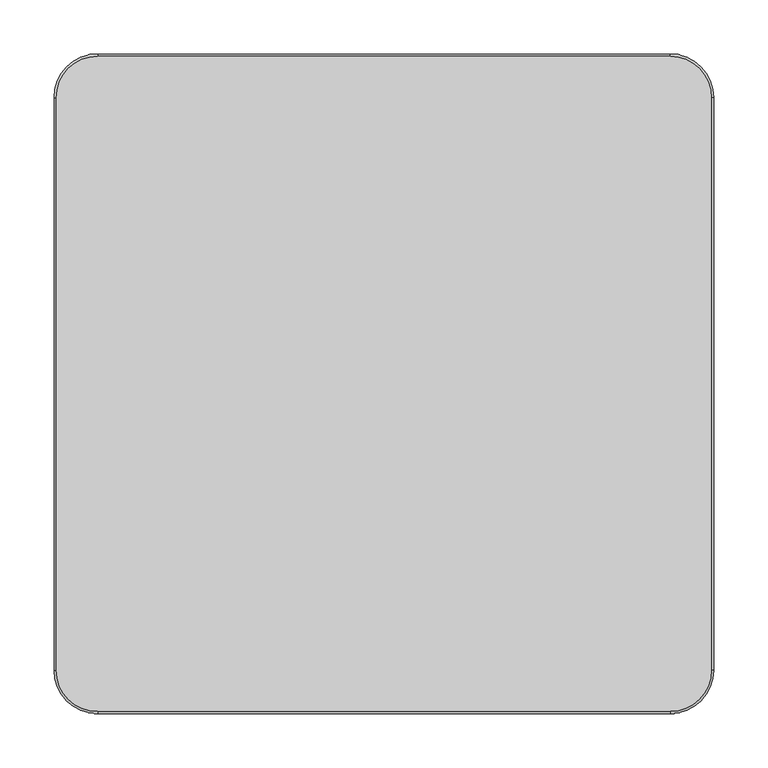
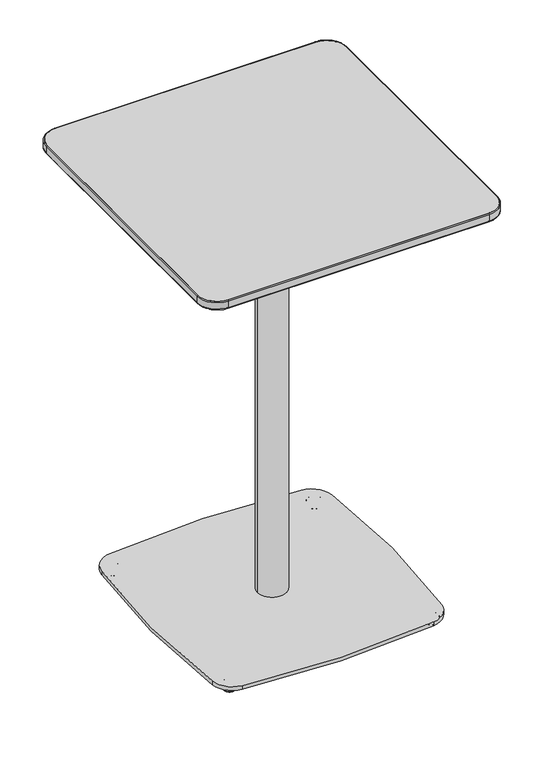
"""IFC4 building model written with IfcOpenShell, lengths in millimetres: furniture geometry, Coalesse_AM_Table_Occasional_Montara650Table_CafeHeight_Square : Counter Height - 24D x 24W."""

from ifc_helpers import new_model, si_unit, point, frame, frame_2d, origin, place, context, project, spatial, polyline, circle_curve, ellipse_curve, trimmed, segment, composite_curve, outline, extrude, source, transform, mapped, element, save
from ifc_brep_helpers import plane_surface, cylinder_surface, revolved_surface, spline_surface, advanced_brep


def furniture_91c41395(model_context):
    return source(origin(), model_context, "Body", "SolidModel", [
        advanced_brep(
        [(-199.4595416, -196.2537842, 0.0), (-209.8436061, -214.2395115, 0.0), (-204.6515739, -205.2466479, 0.0), (-199.0731063, -195.5844585, 0.5718943), (-210.2300415, -214.9088372, 0.5718943), (-197.4473977, -192.7686487, 11.2068005), (-211.8557501, -217.7246471, 11.2068005), (-197.7408617, -193.2769433, 11.9999882), (-211.5622861, -217.2163525, 11.9999882), (-204.6515739, -205.2466479, 11.9999882)],
        [
            (0, 1, circle_curve(frame((-204.6515739, -205.2466479, 0.0), z_axis=(0.0, 0.0, -1.0), x_axis=(-0.5000000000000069, -0.8660254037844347, 0.0)), 10.3840645)),
            (1, 2),
            (2, 0),
            (1, 0, circle_curve(frame((-204.6515739, -205.2466479, 0.0), z_axis=(0.0, 0.0, -1.0), x_axis=(-0.5000000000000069, -0.8660254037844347, 0.0)), 10.3840645)),
            (3, 4, circle_curve(frame((-204.6515739, -205.2466479, 0.5718943), z_axis=(0.0, 0.0, -1.0), x_axis=(-0.5000000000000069, -0.8660254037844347, 0.0)), 11.1569353)),
            (4, 1, circle_curve(frame((-209.8436061, -214.2395115, 0.8081846), z_axis=(0.8660254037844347, -0.5000000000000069, 0.0), x_axis=(-0.5000000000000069, -0.8660254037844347, 0.0)), 0.8081846)),
            (0, 3, circle_curve(frame((-199.4595416, -196.2537842, 0.8081846), z_axis=(0.866025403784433, -0.5000000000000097, 0.0), x_axis=(0.5000000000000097, 0.866025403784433, 0.0)), 0.8081846)),
            (4, 3, circle_curve(frame((-204.6515739, -205.2466479, 0.5718943), z_axis=(0.0, 0.0, -1.0), x_axis=(-0.5000000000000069, -0.8660254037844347, 0.0)), 11.1569353)),
            (5, 6, circle_curve(frame((-204.6515739, -205.2466479, 11.2068005), z_axis=(0.0, 0.0, -1.0), x_axis=(-0.5000000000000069, -0.8660254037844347, 0.0)), 14.4083524)),
            (6, 4),
            (3, 5),
            (6, 5, circle_curve(frame((-204.6515739, -205.2466479, 11.2068005), z_axis=(0.0, 0.0, -1.0), x_axis=(-0.5000000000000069, -0.8660254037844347, 0.0)), 14.4083524)),
            (7, 8, circle_curve(frame((-204.6515739, -205.2466479, 11.9999882), z_axis=(0.0, 0.0, -1.0), x_axis=(-0.5000000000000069, -0.8660254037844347, 0.0)), 13.8214243)),
            (8, 6, circle_curve(frame((-211.5622861, -217.2163525, 11.3862424), z_axis=(0.8660254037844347, -0.5000000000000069, 0.0), x_axis=(-0.5000000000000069, -0.8660254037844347, 0.0)), 0.6137458)),
            (5, 7, circle_curve(frame((-197.7408617, -193.2769433, 11.3862424), z_axis=(0.866025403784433, -0.5000000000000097, 0.0), x_axis=(0.5000000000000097, 0.866025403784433, 0.0)), 0.6137458)),
            (8, 7, circle_curve(frame((-204.6515739, -205.2466479, 11.9999882), z_axis=(0.0, 0.0, -1.0), x_axis=(-0.5000000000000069, -0.8660254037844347, 0.0)), 13.8214243)),
            (9, 8),
            (7, 9),
        ],
        [
            plane_surface(frame((-204.6515739, -205.2466479, 0.0), z_axis=(0.0, 0.0, -1.0), x_axis=(-0.5000000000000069, -0.8660254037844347, 0.0))),
            revolved_surface(trimmed(ellipse_curve(frame((-209.8436061, -214.2395115, 0.8081846), z_axis=(-0.8660254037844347, 0.5000000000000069, 0.0), x_axis=(-0.5000000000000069, -0.8660254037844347, 0.0)), 0.8081846, 0.8081846), [point((-209.8436061, -214.2395115, 0.0))], [point((-210.2300415, -214.9088372, 0.5718943))], True, "CARTESIAN"), (-204.6515739, -205.2466479, 12.2086845), (0.0, 0.0, 1.0)),
            revolved_surface(polyline([(-210.2300415, -214.9088372, 0.5718943), (-211.8557501, -217.7246471, 11.2068005)]), (-204.6515739, -205.2466479, 12.2086845), (0.0, 0.0, 1.0)),
            revolved_surface(trimmed(ellipse_curve(frame((-211.5622861, -217.2163525, 11.3862424), z_axis=(-0.8660254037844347, 0.5000000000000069, 0.0), x_axis=(-0.5000000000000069, -0.8660254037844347, 0.0)), 0.6137458, 0.6137458), [point((-211.8557501, -217.7246471, 11.2068005))], [point((-211.5622861, -217.2163525, 11.9999882))], True, "CARTESIAN"), (-204.6515739, -205.2466479, 12.2086845), (0.0, 0.0, 1.0)),
            plane_surface(frame((-204.6515739, -205.2466479, 11.9999882), z_axis=(0.0, 0.0, 1.0), x_axis=(-0.5000000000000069, -0.8660254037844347, 0.0))),
        ],
        [
            (0, [[1, 2, 3]]),
            (0, [[4, -3, -2]]),
            (1, [[5, 6, -1, 7]]),
            (1, [[8, -7, -4, -6]]),
            (2, [[9, 10, -5, 11]]),
            (2, [[12, -11, -8, -10]]),
            (3, [[13, 14, -9, 15]]),
            (3, [[16, -15, -12, -14]]),
            (4, [[17, -13, 18]]),
            (4, [[-18, -16, -17]]),
        ],
    ),
        advanced_brep(
        [(204.6515739, -205.2466479, 0.0), (209.8436061, -214.2395115, 0.0), (199.4595416, -196.2537842, 0.0), (210.2300415, -214.9088372, 0.5718943), (199.0731063, -195.5844585, 0.5718943), (211.8557501, -217.7246471, 11.2068005), (197.4473977, -192.7686487, 11.2068005), (211.5622861, -217.2163525, 11.9999882), (197.7408617, -193.2769433, 11.9999882), (204.6515739, -205.2466479, 11.9999882)],
        [
            (0, 1),
            (1, 2, circle_curve(frame((204.6515739, -205.2466479, 0.0), z_axis=(0.0, 0.0, -1.0), x_axis=(0.5000000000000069, -0.8660254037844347, 0.0)), 10.3840645)),
            (2, 0),
            (2, 1, circle_curve(frame((204.6515739, -205.2466479, 0.0), z_axis=(0.0, 0.0, -1.0), x_axis=(0.5000000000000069, -0.8660254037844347, 0.0)), 10.3840645)),
            (1, 3, circle_curve(frame((209.8436061, -214.2395115, 0.8081846), z_axis=(-0.8660254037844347, -0.5000000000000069, 0.0), x_axis=(0.5000000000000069, -0.8660254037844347, 0.0)), 0.8081846)),
            (3, 4, circle_curve(frame((204.6515739, -205.2466479, 0.5718943), z_axis=(0.0, 0.0, -1.0), x_axis=(0.5000000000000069, -0.8660254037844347, 0.0)), 11.1569353)),
            (4, 2, circle_curve(frame((199.4595416, -196.2537842, 0.8081846), z_axis=(-0.866025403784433, -0.5000000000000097, 0.0), x_axis=(-0.5000000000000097, 0.866025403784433, 0.0)), 0.8081846)),
            (4, 3, circle_curve(frame((204.6515739, -205.2466479, 0.5718943), z_axis=(0.0, 0.0, -1.0), x_axis=(0.5000000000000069, -0.8660254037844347, 0.0)), 11.1569353)),
            (3, 5),
            (5, 6, circle_curve(frame((204.6515739, -205.2466479, 11.2068005), z_axis=(0.0, 0.0, -1.0), x_axis=(0.5000000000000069, -0.8660254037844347, 0.0)), 14.4083524)),
            (6, 4),
            (6, 5, circle_curve(frame((204.6515739, -205.2466479, 11.2068005), z_axis=(0.0, 0.0, -1.0), x_axis=(0.5000000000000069, -0.8660254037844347, 0.0)), 14.4083524)),
            (5, 7, circle_curve(frame((211.5622861, -217.2163525, 11.3862424), z_axis=(-0.8660254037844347, -0.5000000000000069, 0.0), x_axis=(0.5000000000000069, -0.8660254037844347, 0.0)), 0.6137458)),
            (7, 8, circle_curve(frame((204.6515739, -205.2466479, 11.9999882), z_axis=(0.0, 0.0, -1.0), x_axis=(0.5000000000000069, -0.8660254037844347, 0.0)), 13.8214243)),
            (8, 6, circle_curve(frame((197.7408617, -193.2769433, 11.3862424), z_axis=(-0.866025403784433, -0.5000000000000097, 0.0), x_axis=(-0.5000000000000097, 0.866025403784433, 0.0)), 0.6137458)),
            (8, 7, circle_curve(frame((204.6515739, -205.2466479, 11.9999882), z_axis=(0.0, 0.0, -1.0), x_axis=(0.5000000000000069, -0.8660254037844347, 0.0)), 13.8214243)),
            (7, 9),
            (9, 8),
        ],
        [
            plane_surface(frame((204.6515739, -205.2466479, 0.0), z_axis=(0.0, 0.0, -1.0), x_axis=(0.5000000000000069, -0.8660254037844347, 0.0))),
            revolved_surface(trimmed(ellipse_curve(frame((209.8436061, -214.2395115, 0.8081846), z_axis=(0.8660254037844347, 0.5000000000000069, 0.0), x_axis=(0.5000000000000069, -0.8660254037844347, 0.0)), 0.8081846, 0.8081846), [point((210.2300415, -214.9088372, 0.5718943))], [point((209.8436061, -214.2395115, 0.0))], True, "CARTESIAN"), (204.6515739, -205.2466479, 12.2086845), (0.0, 0.0, -1.0)),
            revolved_surface(polyline([(211.8557501, -217.7246471, 11.2068005), (210.2300415, -214.9088372, 0.5718943)]), (204.6515739, -205.2466479, 12.2086845), (0.0, 0.0, -1.0)),
            revolved_surface(trimmed(ellipse_curve(frame((211.5622861, -217.2163525, 11.3862424), z_axis=(0.8660254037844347, 0.5000000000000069, 0.0), x_axis=(0.5000000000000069, -0.8660254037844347, 0.0)), 0.6137458, 0.6137458), [point((211.5622861, -217.2163525, 11.9999882))], [point((211.8557501, -217.7246471, 11.2068005))], True, "CARTESIAN"), (204.6515739, -205.2466479, 12.2086845), (0.0, 0.0, -1.0)),
            plane_surface(frame((204.6515739, -205.2466479, 11.9999882), z_axis=(0.0, 0.0, 1.0), x_axis=(0.5000000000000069, -0.8660254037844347, 0.0))),
        ],
        [
            (0, [[1, 2, 3]]),
            (0, [[-3, 4, -1]]),
            (1, [[-2, 5, 6, 7]]),
            (1, [[-4, -7, 8, -5]]),
            (2, [[-6, 9, 10, 11]]),
            (2, [[-8, -11, 12, -9]]),
            (3, [[-10, 13, 14, 15]]),
            (3, [[-12, -15, 16, -13]]),
            (4, [[-14, 17, 18]]),
            (4, [[-16, -18, -17]]),
        ],
    ),
        advanced_brep(
        [(199.4595416, 196.2537842, 0.0), (209.8436061, 214.2395115, 0.0), (204.6515739, 205.2466479, 0.0), (199.0731063, 195.5844585, 0.5718943), (210.2300415, 214.9088372, 0.5718943), (197.4473977, 192.7686487, 11.2068005), (211.8557501, 217.7246471, 11.2068005), (197.7408617, 193.2769433, 11.9999882), (211.5622861, 217.2163525, 11.9999882), (204.6515739, 205.2466479, 11.9999882)],
        [
            (0, 1, circle_curve(frame((204.6515739, 205.2466479, 0.0), z_axis=(0.0, 0.0, -1.0), x_axis=(0.5000000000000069, 0.8660254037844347, 0.0)), 10.3840645)),
            (1, 2),
            (2, 0),
            (1, 0, circle_curve(frame((204.6515739, 205.2466479, 0.0), z_axis=(0.0, 0.0, -1.0), x_axis=(0.5000000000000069, 0.8660254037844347, 0.0)), 10.3840645)),
            (3, 4, circle_curve(frame((204.6515739, 205.2466479, 0.5718943), z_axis=(0.0, 0.0, -1.0), x_axis=(0.5000000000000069, 0.8660254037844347, 0.0)), 11.1569353)),
            (4, 1, circle_curve(frame((209.8436061, 214.2395115, 0.8081846), z_axis=(-0.8660254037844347, 0.5000000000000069, 0.0), x_axis=(0.5000000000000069, 0.8660254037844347, 0.0)), 0.8081846)),
            (0, 3, circle_curve(frame((199.4595416, 196.2537842, 0.8081846), z_axis=(-0.866025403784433, 0.5000000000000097, 0.0), x_axis=(-0.5000000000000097, -0.866025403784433, 0.0)), 0.8081846)),
            (4, 3, circle_curve(frame((204.6515739, 205.2466479, 0.5718943), z_axis=(0.0, 0.0, -1.0), x_axis=(0.5000000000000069, 0.8660254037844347, 0.0)), 11.1569353)),
            (5, 6, circle_curve(frame((204.6515739, 205.2466479, 11.2068005), z_axis=(0.0, 0.0, -1.0), x_axis=(0.5000000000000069, 0.8660254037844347, 0.0)), 14.4083524)),
            (6, 4),
            (3, 5),
            (6, 5, circle_curve(frame((204.6515739, 205.2466479, 11.2068005), z_axis=(0.0, 0.0, -1.0), x_axis=(0.5000000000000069, 0.8660254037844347, 0.0)), 14.4083524)),
            (7, 8, circle_curve(frame((204.6515739, 205.2466479, 11.9999882), z_axis=(0.0, 0.0, -1.0), x_axis=(0.5000000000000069, 0.8660254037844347, 0.0)), 13.8214243)),
            (8, 6, circle_curve(frame((211.5622861, 217.2163525, 11.3862424), z_axis=(-0.8660254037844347, 0.5000000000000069, 0.0), x_axis=(0.5000000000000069, 0.8660254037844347, 0.0)), 0.6137458)),
            (5, 7, circle_curve(frame((197.7408617, 193.2769433, 11.3862424), z_axis=(-0.866025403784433, 0.5000000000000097, 0.0), x_axis=(-0.5000000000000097, -0.866025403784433, 0.0)), 0.6137458)),
            (8, 7, circle_curve(frame((204.6515739, 205.2466479, 11.9999882), z_axis=(0.0, 0.0, -1.0), x_axis=(0.5000000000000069, 0.8660254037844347, 0.0)), 13.8214243)),
            (9, 8),
            (7, 9),
        ],
        [
            plane_surface(frame((204.6515739, 205.2466479, 0.0), z_axis=(0.0, 0.0, -1.0), x_axis=(0.5000000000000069, 0.8660254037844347, 0.0))),
            revolved_surface(trimmed(ellipse_curve(frame((209.8436061, 214.2395115, 0.8081846), z_axis=(0.8660254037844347, -0.5000000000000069, 0.0), x_axis=(0.5000000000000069, 0.8660254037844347, 0.0)), 0.8081846, 0.8081846), [point((209.8436061, 214.2395115, 0.0))], [point((210.2300415, 214.9088372, 0.5718943))], True, "CARTESIAN"), (204.6515739, 205.2466479, 12.2086845), (0.0, 0.0, 1.0)),
            revolved_surface(polyline([(210.2300415, 214.9088372, 0.5718943), (211.8557501, 217.7246471, 11.2068005)]), (204.6515739, 205.2466479, 12.2086845), (0.0, 0.0, 1.0)),
            revolved_surface(trimmed(ellipse_curve(frame((211.5622861, 217.2163525, 11.3862424), z_axis=(0.8660254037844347, -0.5000000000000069, 0.0), x_axis=(0.5000000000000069, 0.8660254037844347, 0.0)), 0.6137458, 0.6137458), [point((211.8557501, 217.7246471, 11.2068005))], [point((211.5622861, 217.2163525, 11.9999882))], True, "CARTESIAN"), (204.6515739, 205.2466479, 12.2086845), (0.0, 0.0, 1.0)),
            plane_surface(frame((204.6515739, 205.2466479, 11.9999882), z_axis=(0.0, 0.0, 1.0), x_axis=(0.5000000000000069, 0.8660254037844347, 0.0))),
        ],
        [
            (0, [[1, 2, 3]]),
            (0, [[4, -3, -2]]),
            (1, [[5, 6, -1, 7]]),
            (1, [[8, -7, -4, -6]]),
            (2, [[9, 10, -5, 11]]),
            (2, [[12, -11, -8, -10]]),
            (3, [[13, 14, -9, 15]]),
            (3, [[16, -15, -12, -14]]),
            (4, [[17, -13, 18]]),
            (4, [[-18, -16, -17]]),
        ],
    ),
        extrude(outline(composite_curve([segment(trimmed(circle_curve(frame_2d((189.3188482, 188.9781952)), 44.45), [point((194.4241587, 233.1340363))], [point((233.4709717, 194.115557))], False, "CARTESIAN"), True, "CONTINUOUS"), segment(trimmed(circle_curve(frame_2d((-1397.5488879, 4.3367087)), 1642.0236885), [point((233.4709717, 194.115557))], [point((232.4883748, -193.704489))], False, "CARTESIAN"), True, "CONTINUOUS"), segment(trimmed(circle_curve(frame_2d((188.3628504, -188.3434633)), 44.45), [point((232.4883748, -193.704489))], [point((193.9003311, -232.4471911))], False, "CARTESIAN"), True, "CONTINUOUS"), segment(trimmed(circle_curve(frame_2d((-4.3367152, 1346.4283112)), 1591.2717488), [point((193.9003311, -232.4471911))], [point((-194.577927, -233.4305622))], False, "CARTESIAN"), True, "CONTINUOUS"), segment(trimmed(circle_curve(frame_2d((-189.263799, -189.2993652)), 44.45), [point((-194.577927, -233.4305622))], [point((-233.438325, -194.2403925))], False, "CARTESIAN"), True, "CONTINUOUS"), segment(trimmed(circle_curve(frame_2d((1503.1397991, 5.89e-05)), 1747.4074894), [point((-233.438325, -194.2403925))], [point((-233.4410299, 194.2163254))], False, "CARTESIAN"), True, "CONTINUOUS"), segment(trimmed(circle_curve(frame_2d((-189.2664351, 189.2759133)), 44.45), [point((-233.4410299, 194.2163254))], [point((-194.3022914, 233.4397294))], False, "CARTESIAN"), True, "CONTINUOUS"), segment(trimmed(circle_curve(frame_2d((-1.2702107, -1459.4269529)), 1703.8365498), [point((-194.3022914, 233.4397294))], [point((194.4241587, 233.1340363))], False, "CARTESIAN"), True, "CONTINUOUS")], self_intersect=False)), frame((0.0, 0.0, 11.999986), z_axis=(0.0, 0.0, 1.0), x_axis=(1.0, 0.0, 0.0)), (0.0, 0.0, 1.0), 8.0000105),
        advanced_brep(
        [(-204.6515739, 205.2466479, 0.0), (-209.8436061, 214.2395115, 0.0), (-199.4595416, 196.2537842, 0.0), (-210.2300415, 214.9088372, 0.5718943), (-199.0731063, 195.5844585, 0.5718943), (-211.8557501, 217.7246471, 11.2068005), (-197.4473977, 192.7686487, 11.2068005), (-211.5622861, 217.2163525, 11.9999882), (-197.7408617, 193.2769433, 11.9999882), (-204.6515739, 205.2466479, 11.9999882)],
        [
            (0, 1),
            (1, 2, circle_curve(frame((-204.6515739, 205.2466479, 0.0), z_axis=(0.0, 0.0, -1.0), x_axis=(-0.5000000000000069, 0.8660254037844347, 0.0)), 10.3840645)),
            (2, 0),
            (2, 1, circle_curve(frame((-204.6515739, 205.2466479, 0.0), z_axis=(0.0, 0.0, -1.0), x_axis=(-0.5000000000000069, 0.8660254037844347, 0.0)), 10.3840645)),
            (1, 3, circle_curve(frame((-209.8436061, 214.2395115, 0.8081846), z_axis=(0.8660254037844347, 0.5000000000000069, 0.0), x_axis=(-0.5000000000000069, 0.8660254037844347, 0.0)), 0.8081846)),
            (3, 4, circle_curve(frame((-204.6515739, 205.2466479, 0.5718943), z_axis=(0.0, 0.0, -1.0), x_axis=(-0.5000000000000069, 0.8660254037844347, 0.0)), 11.1569353)),
            (4, 2, circle_curve(frame((-199.4595416, 196.2537842, 0.8081846), z_axis=(0.866025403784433, 0.5000000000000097, 0.0), x_axis=(0.5000000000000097, -0.866025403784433, 0.0)), 0.8081846)),
            (4, 3, circle_curve(frame((-204.6515739, 205.2466479, 0.5718943), z_axis=(0.0, 0.0, -1.0), x_axis=(-0.5000000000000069, 0.8660254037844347, 0.0)), 11.1569353)),
            (3, 5),
            (5, 6, circle_curve(frame((-204.6515739, 205.2466479, 11.2068005), z_axis=(0.0, 0.0, -1.0), x_axis=(-0.5000000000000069, 0.8660254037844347, 0.0)), 14.4083524)),
            (6, 4),
            (6, 5, circle_curve(frame((-204.6515739, 205.2466479, 11.2068005), z_axis=(0.0, 0.0, -1.0), x_axis=(-0.5000000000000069, 0.8660254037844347, 0.0)), 14.4083524)),
            (5, 7, circle_curve(frame((-211.5622861, 217.2163525, 11.3862424), z_axis=(0.8660254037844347, 0.5000000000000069, 0.0), x_axis=(-0.5000000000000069, 0.8660254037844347, 0.0)), 0.6137458)),
            (7, 8, circle_curve(frame((-204.6515739, 205.2466479, 11.9999882), z_axis=(0.0, 0.0, -1.0), x_axis=(-0.5000000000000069, 0.8660254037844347, 0.0)), 13.8214243)),
            (8, 6, circle_curve(frame((-197.7408617, 193.2769433, 11.3862424), z_axis=(0.866025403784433, 0.5000000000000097, 0.0), x_axis=(0.5000000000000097, -0.866025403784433, 0.0)), 0.6137458)),
            (8, 7, circle_curve(frame((-204.6515739, 205.2466479, 11.9999882), z_axis=(0.0, 0.0, -1.0), x_axis=(-0.5000000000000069, 0.8660254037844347, 0.0)), 13.8214243)),
            (7, 9),
            (9, 8),
        ],
        [
            plane_surface(frame((-204.6515739, 205.2466479, 0.0), z_axis=(0.0, 0.0, -1.0), x_axis=(-0.5000000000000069, 0.8660254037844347, 0.0))),
            revolved_surface(trimmed(ellipse_curve(frame((-209.8436061, 214.2395115, 0.8081846), z_axis=(-0.8660254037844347, -0.5000000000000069, 0.0), x_axis=(-0.5000000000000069, 0.8660254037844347, 0.0)), 0.8081846, 0.8081846), [point((-210.2300415, 214.9088372, 0.5718943))], [point((-209.8436061, 214.2395115, 0.0))], True, "CARTESIAN"), (-204.6515739, 205.2466479, 12.2086845), (0.0, 0.0, -1.0)),
            revolved_surface(polyline([(-211.8557501, 217.7246471, 11.2068005), (-210.2300415, 214.9088372, 0.5718943)]), (-204.6515739, 205.2466479, 12.2086845), (0.0, 0.0, -1.0)),
            revolved_surface(trimmed(ellipse_curve(frame((-211.5622861, 217.2163525, 11.3862424), z_axis=(-0.8660254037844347, -0.5000000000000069, 0.0), x_axis=(-0.5000000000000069, 0.8660254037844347, 0.0)), 0.6137458, 0.6137458), [point((-211.5622861, 217.2163525, 11.9999882))], [point((-211.8557501, 217.7246471, 11.2068005))], True, "CARTESIAN"), (-204.6515739, 205.2466479, 12.2086845), (0.0, 0.0, -1.0)),
            plane_surface(frame((-204.6515739, 205.2466479, 11.9999882), z_axis=(0.0, 0.0, 1.0), x_axis=(-0.5000000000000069, 0.8660254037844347, 0.0))),
        ],
        [
            (0, [[1, 2, 3]]),
            (0, [[-3, 4, -1]]),
            (1, [[-2, 5, 6, 7]]),
            (1, [[-4, -7, 8, -5]]),
            (2, [[-6, 9, 10, 11]]),
            (2, [[-8, -11, 12, -9]]),
            (3, [[-10, 13, 14, 15]]),
            (3, [[-12, -15, 16, -13]]),
            (4, [[-14, 17, 18]]),
            (4, [[-16, -18, -17]]),
        ],
    ),
        advanced_brep(
        [(239.8626362, 239.8635082, 884.430027), (239.8626362, -239.8635082, 884.430027), (-239.8626362, -239.8635082, 884.430027), (-239.8626362, 239.8635082, 884.430027), (264.588625, 302.768, 896.695891), (-264.588625, 302.768, 896.695891), (-302.688625, 264.668, 896.695891), (-302.688625, -264.668, 896.695891), (-264.588625, -302.768, 896.695891), (264.588625, -302.768, 896.695891), (302.688625, -264.668, 896.695891), (302.688625, 264.668, 896.695891)],
        [
            (0, 1),
            (1, 2),
            (2, 3),
            (3, 0),
            (4, 5),
            (5, 6, circle_curve(frame((-264.588625, 264.668, 896.695891), z_axis=(0.0, 0.0, 1.0), x_axis=(1.0, 0.0, 0.0)), 38.1)),
            (6, 7),
            (7, 8, circle_curve(frame((-264.588625, -264.668, 896.695891), z_axis=(0.0, 0.0, 1.0), x_axis=(1.0, 0.0, 0.0)), 38.1)),
            (8, 9),
            (9, 10, circle_curve(frame((264.588625, -264.668, 896.695891), z_axis=(0.0, 0.0, 1.0), x_axis=(1.0, 0.0, 0.0)), 38.1)),
            (10, 11),
            (11, 4, circle_curve(frame((264.588625, 264.668, 896.695891), z_axis=(0.0, 0.0, 1.0), x_axis=(1.0, 0.0, 0.0)), 38.1)),
            (11, 0),
            (0, 4),
            (10, 1),
            (9, 1),
            (8, 2),
            (7, 2),
            (6, 3),
            (5, 3),
        ],
        [
            plane_surface(frame((0.0, 0.0, 884.430027), z_axis=(0.0, 0.0, -1.0), x_axis=(-1.0, 0.0, 0.0))),
            plane_surface(frame((0.0, 0.0, 896.695891), z_axis=(0.0, 0.0, 1.0), x_axis=(-1.0, 0.0, 0.0))),
            spline_surface(2, 1, [[(264.588625, 302.768, 896.695891), (239.8626362, 239.8635082, 884.430027)], [(302.68862499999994, 302.7679999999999, 896.695891), (239.8626362, 239.8635082, 884.430027)], [(302.688625, 264.668, 896.695891), (239.8626362, 239.8635082, 884.430027)]], [3, 3], [2, 2], [0.0, 1.0], [0.0, 1.0], weights=[[1.0, 1.0], [0.7071067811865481, 0.7071067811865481], [1.0, 1.0]]),
            plane_surface(frame((302.688625, 0.0, 896.695891), z_axis=(0.19161772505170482, 0.0, -0.9814696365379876), x_axis=(0.0, -1.0, 0.0))),
            spline_surface(2, 1, [[(302.688625, -264.668, 896.695891), (239.8626362, -239.8635082, 884.430027)], [(302.68862500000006, -302.76800000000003, 896.695891), (239.8626362, -239.8635082, 884.430027)], [(264.588625, -302.768, 896.695891), (239.8626362, -239.8635082, 884.430027)]], [3, 3], [2, 2], [0.0, 1.0], [0.0, 1.0], weights=[[1.0, 1.0], [0.707106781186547, 0.707106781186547], [1.0, 1.0]]),
            plane_surface(frame((0.0, -302.768, 896.695891), z_axis=(0.0, -0.19138735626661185, -0.981514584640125), x_axis=(-1.0, 0.0, 0.0))),
            spline_surface(2, 1, [[(-264.588625, -302.768, 896.695891), (-239.8626362, -239.8635082, 884.430027)], [(-302.68862499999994, -302.7679999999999, 896.695891), (-239.8626362, -239.8635082, 884.430027)], [(-302.688625, -264.668, 896.695891), (-239.8626362, -239.8635082, 884.430027)]], [3, 3], [2, 2], [0.0, 1.0], [0.0, 1.0], weights=[[1.0, 1.0], [0.7071067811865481, 0.7071067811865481], [1.0, 1.0]]),
            plane_surface(frame((-302.688625, 0.0, 896.695891), z_axis=(-0.1916177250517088, 0.0, -0.9814696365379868), x_axis=(0.0, 1.0, 0.0))),
            spline_surface(2, 1, [[(-302.688625, 264.668, 896.695891), (-239.8626362, 239.8635082, 884.430027)], [(-302.68862500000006, 302.76800000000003, 896.695891), (-239.8626362, 239.8635082, 884.430027)], [(-264.588625, 302.768, 896.695891), (-239.8626362, 239.8635082, 884.430027)]], [3, 3], [2, 2], [0.0, 1.0], [0.0, 1.0], weights=[[1.0, 1.0], [0.707106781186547, 0.707106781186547], [1.0, 1.0]]),
            plane_surface(frame((0.0, 302.768, 896.695891), z_axis=(0.0, 0.19138735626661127, -0.9815145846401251), x_axis=(1.0, 0.0, 0.0))),
        ],
        [
            (0, [[1, 2, 3, 4]]),
            (1, [[5, 6, 7, 8, 9, 10, 11, 12]]),
            (2, [[-12, 13, 14]]),
            (3, [[-11, 15, -1, -13]]),
            (4, [[-10, 16, -15]]),
            (5, [[-9, 17, -2, -16]]),
            (6, [[-8, 18, -17]]),
            (7, [[-7, 19, -3, -18]]),
            (8, [[-6, 20, -19]]),
            (9, [[-5, -14, -4, -20]]),
        ],
    ),
        extrude(outline(composite_curve([segment(trimmed(circle_curve(frame_2d((264.588625, 264.668)), 38.1), [point((264.588625, 302.768))], [point((302.688625, 264.668))], False, "CARTESIAN"), True, "CONTINUOUS"), segment(polyline([(302.688625, 264.668), (302.688625, -264.668)]), True, "CONTINUOUS"), segment(trimmed(circle_curve(frame_2d((264.588625, -264.668)), 38.1), [point((302.688625, -264.668))], [point((264.588625, -302.768))], False, "CARTESIAN"), True, "CONTINUOUS"), segment(polyline([(264.588625, -302.768), (-264.588625, -302.768)]), True, "CONTINUOUS"), segment(trimmed(circle_curve(frame_2d((-264.588625, -264.668)), 38.1), [point((-264.588625, -302.768))], [point((-302.688625, -264.668))], False, "CARTESIAN"), True, "CONTINUOUS"), segment(polyline([(-302.688625, -264.668), (-302.688625, 264.668)]), True, "CONTINUOUS"), segment(trimmed(circle_curve(frame_2d((-264.588625, 264.668)), 38.1), [point((-302.688625, 264.668))], [point((-264.588625, 302.768))], False, "CARTESIAN"), True, "CONTINUOUS"), segment(polyline([(-264.588625, 302.768), (264.588625, 302.768)]), True, "CONTINUOUS")], self_intersect=False)), frame((0.0, 0.0, 896.695891), z_axis=(0.0, 0.0, 1.0), x_axis=(1.0, 0.0, 0.0)), (0.0, 0.0, 1.0), 17.704109),
        advanced_brep(
        [(-304.7644915, 264.668, 898.6278467), (-264.588625, 304.8438665, 898.6278467), (-264.588625, 302.768, 896.695891), (-302.688625, 264.668, 896.695891), (-304.7644915, 264.668, 912.3999283), (-264.588625, 304.8438665, 912.3999283), (-302.688625, 264.668, 914.4), (-264.588625, 302.768, 914.4), (-302.688625, -264.668, 896.695891), (-304.7644915, -264.668, 898.6278467), (-304.7644915, -264.668, 912.3999283), (-302.688625, -264.668, 914.4), (-264.588625, -304.8438665, 898.6278467), (-264.588625, -302.768, 896.695891), (-264.588625, -304.8438665, 912.3999283), (-264.588625, -302.768, 914.4), (264.588625, -302.768, 896.695891), (264.588625, -304.8438665, 898.6278467), (264.588625, -304.8438665, 912.3999283), (264.588625, -302.768, 914.4), (304.7644915, -264.668, 898.6278467), (302.688625, -264.668, 896.695891), (304.7644915, -264.668, 912.3999283), (302.688625, -264.668, 914.4), (302.688625, 264.668, 896.695891), (304.7644915, 264.668, 898.6278467), (304.7644915, 264.668, 912.3999283), (302.688625, 264.668, 914.4), (264.588625, 304.8438665, 898.6278467), (264.588625, 302.768, 896.695891), (264.588625, 304.8438665, 912.3999283), (264.588625, 302.768, 914.4)],
        [
            (0, 1, circle_curve(frame((-264.588625, 264.668, 898.6278467), z_axis=(0.0, 0.0, -1.0), x_axis=(0.0, 1.0, 0.0)), 40.1758665)),
            (1, 2, circle_curve(frame((-264.588625, 302.9069224, 898.6278467), z_axis=(-1.0, 0.0, 0.0), x_axis=(0.0, -1.0, 0.0)), 1.9369441)),
            (2, 3, circle_curve(frame((-264.588625, 264.668, 896.695891), z_axis=(0.0, 0.0, 1.0), x_axis=(0.0, 1.0, 0.0)), 38.1)),
            (3, 0, circle_curve(frame((-302.8275474, 264.668, 898.6278467), z_axis=(0.0, 1.0, 0.0), x_axis=(1.0, 0.0, 0.0)), 1.9369441)),
            (4, 5, circle_curve(frame((-264.588625, 264.668, 912.3999283), z_axis=(0.0, 0.0, -1.0), x_axis=(0.0, 1.0, 0.0)), 40.1758665)),
            (5, 1),
            (0, 4),
            (6, 7, circle_curve(frame((-264.588625, 264.668, 914.4), z_axis=(0.0, 0.0, -1.0), x_axis=(0.0, 1.0, 0.0)), 38.1)),
            (7, 5, circle_curve(frame((-264.588625, 302.8424111, 912.3999283), z_axis=(-1.0, 0.0, 0.0), x_axis=(0.0, -1.0, 0.0)), 2.0014554)),
            (4, 6, circle_curve(frame((-302.7630361, 264.668, 912.3999283), z_axis=(0.0, 1.0, 0.0), x_axis=(1.0, 0.0, 0.0)), 2.0014554)),
            (2, 7),
            (6, 3),
            (3, 8),
            (8, 9, circle_curve(frame((-302.8275474, -264.668, 898.6278467), z_axis=(0.0, 1.0, 0.0), x_axis=(1.0, 0.0, 0.0)), 1.9369441)),
            (9, 0),
            (9, 10),
            (10, 4),
            (10, 11, circle_curve(frame((-302.7630361, -264.668, 912.3999283), z_axis=(0.0, 1.0, 0.0), x_axis=(1.0, 0.0, 0.0)), 2.0014554)),
            (11, 6),
            (11, 8),
            (12, 9, circle_curve(frame((-264.588625, -264.668, 898.6278467), z_axis=(0.0, 0.0, -1.0), x_axis=(-1.0, 0.0, 0.0)), 40.1758665)),
            (8, 13, circle_curve(frame((-264.588625, -264.668, 896.695891), z_axis=(0.0, 0.0, 1.0), x_axis=(-1.0, 0.0, 0.0)), 38.1)),
            (13, 12, circle_curve(frame((-264.588625, -302.9069224, 898.6278467), z_axis=(-1.0, 0.0, 0.0), x_axis=(0.0, 1.0, 0.0)), 1.9369441)),
            (14, 10, circle_curve(frame((-264.588625, -264.668, 912.3999283), z_axis=(0.0, 0.0, -1.0), x_axis=(-1.0, 0.0, 0.0)), 40.1758665)),
            (12, 14),
            (15, 11, circle_curve(frame((-264.588625, -264.668, 914.4), z_axis=(0.0, 0.0, -1.0), x_axis=(-1.0, 0.0, 0.0)), 38.1)),
            (14, 15, circle_curve(frame((-264.588625, -302.8424111, 912.3999283), z_axis=(-1.0, 0.0, 0.0), x_axis=(0.0, 1.0, 0.0)), 2.0014554)),
            (15, 13),
            (13, 16),
            (16, 17, circle_curve(frame((264.588625, -302.9069224, 898.6278467), z_axis=(-1.0, 0.0, 0.0), x_axis=(0.0, 1.0, 0.0)), 1.9369441)),
            (17, 12),
            (17, 18),
            (18, 14),
            (18, 19, circle_curve(frame((264.588625, -302.8424111, 912.3999283), z_axis=(-1.0, 0.0, 0.0), x_axis=(0.0, 1.0, 0.0)), 2.0014554)),
            (19, 15),
            (19, 16),
            (20, 17, circle_curve(frame((264.588625, -264.668, 898.6278467), z_axis=(0.0, 0.0, -1.0), x_axis=(0.0, -1.0, 0.0)), 40.1758665)),
            (16, 21, circle_curve(frame((264.588625, -264.668, 896.695891), z_axis=(0.0, 0.0, 1.0), x_axis=(0.0, -1.0, 0.0)), 38.1)),
            (21, 20, circle_curve(frame((302.8275474, -264.668, 898.6278467), z_axis=(0.0, -1.0, 0.0), x_axis=(-1.0, 0.0, 0.0)), 1.9369441)),
            (22, 18, circle_curve(frame((264.588625, -264.668, 912.3999283), z_axis=(0.0, 0.0, -1.0), x_axis=(0.0, -1.0, 0.0)), 40.1758665)),
            (20, 22),
            (23, 19, circle_curve(frame((264.588625, -264.668, 914.4), z_axis=(0.0, 0.0, -1.0), x_axis=(0.0, -1.0, 0.0)), 38.1)),
            (22, 23, circle_curve(frame((302.7630361, -264.668, 912.3999283), z_axis=(0.0, -1.0, 0.0), x_axis=(-1.0, 0.0, 0.0)), 2.0014554)),
            (23, 21),
            (21, 24),
            (24, 25, circle_curve(frame((302.8275474, 264.668, 898.6278467), z_axis=(0.0, -1.0, 0.0), x_axis=(-1.0, 0.0, 0.0)), 1.9369441)),
            (25, 20),
            (25, 26),
            (26, 22),
            (26, 27, circle_curve(frame((302.7630361, 264.668, 912.3999283), z_axis=(0.0, -1.0, 0.0), x_axis=(-1.0, 0.0, 0.0)), 2.0014554)),
            (27, 23),
            (27, 24),
            (28, 25, circle_curve(frame((264.588625, 264.668, 898.6278467), z_axis=(0.0, 0.0, -1.0), x_axis=(1.0, 0.0, 0.0)), 40.1758665)),
            (24, 29, circle_curve(frame((264.588625, 264.668, 896.695891), z_axis=(0.0, 0.0, 1.0), x_axis=(1.0, 0.0, 0.0)), 38.1)),
            (29, 28, circle_curve(frame((264.588625, 302.9069224, 898.6278467), z_axis=(1.0, 0.0, 0.0), x_axis=(0.0, -1.0, 0.0)), 1.9369441)),
            (30, 26, circle_curve(frame((264.588625, 264.668, 912.3999283), z_axis=(0.0, 0.0, -1.0), x_axis=(1.0, 0.0, 0.0)), 40.1758665)),
            (28, 30),
            (31, 27, circle_curve(frame((264.588625, 264.668, 914.4), z_axis=(0.0, 0.0, -1.0), x_axis=(1.0, 0.0, 0.0)), 38.1)),
            (30, 31, circle_curve(frame((264.588625, 302.8424111, 912.3999283), z_axis=(1.0, 0.0, 0.0), x_axis=(0.0, -1.0, 0.0)), 2.0014554)),
            (31, 29),
            (29, 2),
            (1, 28),
            (5, 30),
            (7, 31),
        ],
        [
            revolved_surface(trimmed(ellipse_curve(frame((-264.588625, 302.9069224, 898.6278467), z_axis=(1.0, 0.0, 0.0), x_axis=(0.0, -1.0, 0.0)), 1.9369441, 1.9369441), [point((-264.588625, 302.768, 896.695891))], [point((-264.588625, 304.8438665, 898.6278467))], True, "CARTESIAN"), (-264.588625, 264.668, 0.0), (0.0, 0.0, 1.0)),
            cylinder_surface(frame((-264.588625, 264.668, 0.0), z_axis=(0.0, 0.0, 1.0), x_axis=(0.0, 1.0, 0.0)), 40.1758665),
            revolved_surface(trimmed(ellipse_curve(frame((-264.588625, 302.8424111, 912.3999283), z_axis=(1.0, 0.0, 0.0), x_axis=(0.0, -1.0, 0.0)), 2.0014554, 2.0014554), [point((-264.588625, 304.8438665, 912.3999283))], [point((-264.588625, 302.768, 914.4))], True, "CARTESIAN"), (-264.588625, 264.668, 0.0), (0.0, 0.0, 1.0)),
            revolved_surface(polyline([(-264.588625, 302.76800000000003, 914.4), (-264.588625, 302.76800000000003, 896.695891)]), (-264.588625, 264.668, 0.0), (0.0, 0.0, 1.0)),
            cylinder_surface(frame((-302.8275474, 264.668, 898.6278467), z_axis=(0.0, 1.0, 0.0), x_axis=(1.0, 0.0, 0.0)), 1.9369441),
            plane_surface(frame((-304.7644915, 264.668, 898.6278467), z_axis=(-1.0, 0.0, 0.0), x_axis=(0.0, -1.0, 0.0))),
            cylinder_surface(frame((-302.7630361, 264.668, 912.3999283), z_axis=(0.0, 1.0, 0.0), x_axis=(1.0, 0.0, 0.0)), 2.0014554),
            plane_surface(frame((-302.688625, 264.668, 914.4), z_axis=(1.0, 0.0, 0.0), x_axis=(0.0, -1.0, 0.0))),
            revolved_surface(trimmed(ellipse_curve(frame((-302.8275474, -264.668, 898.6278467), z_axis=(0.0, 1.0, 0.0), x_axis=(1.0, 0.0, 0.0)), 1.9369441, 1.9369441), [point((-302.688625, -264.668, 896.695891))], [point((-304.7644915, -264.668, 898.6278467))], True, "CARTESIAN"), (-264.588625, -264.668, 0.0), (0.0, 0.0, 1.0)),
            cylinder_surface(frame((-264.588625, -264.668, 0.0), z_axis=(0.0, 0.0, 1.0), x_axis=(-1.0, 0.0, 0.0)), 40.1758665),
            revolved_surface(trimmed(ellipse_curve(frame((-302.7630361, -264.668, 912.3999283), z_axis=(0.0, 1.0, 0.0), x_axis=(1.0, 0.0, 0.0)), 2.0014554, 2.0014554), [point((-304.7644915, -264.668, 912.3999283))], [point((-302.688625, -264.668, 914.4))], True, "CARTESIAN"), (-264.588625, -264.668, 0.0), (0.0, 0.0, 1.0)),
            revolved_surface(polyline([(-302.688625, -264.668, 914.4), (-302.688625, -264.668, 896.695891)]), (-264.588625, -264.668, 0.0), (0.0, 0.0, 1.0)),
            cylinder_surface(frame((-264.588625, -302.9069224, 898.6278467), z_axis=(-1.0, 0.0, 0.0), x_axis=(0.0, 1.0, 0.0)), 1.9369441),
            plane_surface(frame((-264.588625, -304.8438665, 898.6278467), z_axis=(0.0, -1.0, 0.0), x_axis=(1.0, 0.0, 0.0))),
            cylinder_surface(frame((-264.588625, -302.8424111, 912.3999283), z_axis=(-1.0, 0.0, 0.0), x_axis=(0.0, 1.0, 0.0)), 2.0014554),
            plane_surface(frame((-264.588625, -302.768, 914.4), z_axis=(0.0, 1.0, 0.0), x_axis=(1.0, 0.0, 0.0))),
            revolved_surface(trimmed(ellipse_curve(frame((264.588625, -302.9069224, 898.6278467), z_axis=(-1.0, 0.0, 0.0), x_axis=(0.0, 1.0, 0.0)), 1.9369441, 1.9369441), [point((264.588625, -302.768, 896.695891))], [point((264.588625, -304.8438665, 898.6278467))], True, "CARTESIAN"), (264.588625, -264.668, 0.0), (0.0, 0.0, 1.0)),
            cylinder_surface(frame((264.588625, -264.668, 0.0), z_axis=(0.0, 0.0, 1.0), x_axis=(0.0, -1.0, 0.0)), 40.1758665),
            revolved_surface(trimmed(ellipse_curve(frame((264.588625, -302.8424111, 912.3999283), z_axis=(-1.0, 0.0, 0.0), x_axis=(0.0, 1.0, 0.0)), 2.0014554, 2.0014554), [point((264.588625, -304.8438665, 912.3999283))], [point((264.588625, -302.768, 914.4))], True, "CARTESIAN"), (264.588625, -264.668, 0.0), (0.0, 0.0, 1.0)),
            revolved_surface(polyline([(264.588625, -302.76800000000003, 914.4), (264.588625, -302.76800000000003, 896.695891)]), (264.588625, -264.668, 0.0), (0.0, 0.0, 1.0)),
            cylinder_surface(frame((302.8275474, -264.668, 898.6278467), z_axis=(0.0, -1.0, 0.0), x_axis=(-1.0, 0.0, 0.0)), 1.9369441),
            plane_surface(frame((304.7644915, -264.668, 898.6278467), z_axis=(1.0, 0.0, 0.0), x_axis=(0.0, 1.0, 0.0))),
            cylinder_surface(frame((302.7630361, -264.668, 912.3999283), z_axis=(0.0, -1.0, 0.0), x_axis=(-1.0, 0.0, 0.0)), 2.0014554),
            plane_surface(frame((302.688625, -264.668, 914.4), z_axis=(-1.0, 0.0, 0.0), x_axis=(0.0, 1.0, 0.0))),
            revolved_surface(trimmed(ellipse_curve(frame((302.8275474, 264.668, 898.6278467), z_axis=(0.0, -1.0, 0.0), x_axis=(-1.0, 0.0, 0.0)), 1.9369441, 1.9369441), [point((302.688625, 264.668, 896.695891))], [point((304.7644915, 264.668, 898.6278467))], True, "CARTESIAN"), (264.588625, 264.668, 0.0), (0.0, 0.0, 1.0)),
            cylinder_surface(frame((264.588625, 264.668, 0.0), z_axis=(0.0, 0.0, 1.0), x_axis=(1.0, 0.0, 0.0)), 40.1758665),
            revolved_surface(trimmed(ellipse_curve(frame((302.7630361, 264.668, 912.3999283), z_axis=(0.0, -1.0, 0.0), x_axis=(-1.0, 0.0, 0.0)), 2.0014554, 2.0014554), [point((304.7644915, 264.668, 912.3999283))], [point((302.688625, 264.668, 914.4))], True, "CARTESIAN"), (264.588625, 264.668, 0.0), (0.0, 0.0, 1.0)),
            revolved_surface(polyline([(302.688625, 264.668, 914.4), (302.688625, 264.668, 896.695891)]), (264.588625, 264.668, 0.0), (0.0, 0.0, 1.0)),
            cylinder_surface(frame((264.588625, 302.9069224, 898.6278467), z_axis=(1.0, 0.0, 0.0), x_axis=(0.0, -1.0, 0.0)), 1.9369441),
            plane_surface(frame((264.588625, 304.8438665, 898.6278467), z_axis=(0.0, 1.0, 0.0), x_axis=(-1.0, 0.0, 0.0))),
            cylinder_surface(frame((264.588625, 302.8424111, 912.3999283), z_axis=(1.0, 0.0, 0.0), x_axis=(0.0, -1.0, 0.0)), 2.0014554),
            plane_surface(frame((264.588625, 302.768, 914.4), z_axis=(0.0, -1.0, 0.0), x_axis=(-1.0, 0.0, 0.0))),
        ],
        [
            (0, [[1, 2, 3, 4]]),
            (1, [[5, 6, -1, 7]]),
            (2, [[8, 9, -5, 10]]),
            (3, [[-3, 11, -8, 12]]),
            (4, [[-4, 13, 14, 15]]),
            (5, [[-7, -15, 16, 17]]),
            (6, [[-10, -17, 18, 19]]),
            (7, [[-12, -19, 20, -13]]),
            (8, [[21, -14, 22, 23]]),
            (9, [[24, -16, -21, 25]]),
            (10, [[26, -18, -24, 27]]),
            (11, [[-22, -20, -26, 28]]),
            (12, [[-23, 29, 30, 31]]),
            (13, [[-25, -31, 32, 33]]),
            (14, [[-27, -33, 34, 35]]),
            (15, [[-28, -35, 36, -29]]),
            (16, [[37, -30, 38, 39]]),
            (17, [[40, -32, -37, 41]]),
            (18, [[42, -34, -40, 43]]),
            (19, [[-38, -36, -42, 44]]),
            (20, [[-39, 45, 46, 47]]),
            (21, [[-41, -47, 48, 49]]),
            (22, [[-43, -49, 50, 51]]),
            (23, [[-44, -51, 52, -45]]),
            (24, [[53, -46, 54, 55]]),
            (25, [[56, -48, -53, 57]]),
            (26, [[58, -50, -56, 59]]),
            (27, [[-54, -52, -58, 60]]),
            (28, [[-55, 61, -2, 62]]),
            (29, [[-57, -62, -6, 63]]),
            (30, [[-59, -63, -9, 64]]),
            (31, [[-60, -64, -11, -61]]),
        ],
    ),
        advanced_brep(
        [(131.6004101, 0.0, 881.255027), (-131.6004101, 0.0, 881.255027), (-176.1626132, 0.0, 881.255027), (176.1626132, 0.0, 881.255027), (121.0488662, 0.0, 880.1460151), (-121.0488662, 0.0, 880.1460151), (48.7461809, 0.0, 865.4837029), (-48.7461809, 0.0, 865.4837029), (37.412985, 0.0, 865.4837029), (-37.412985, 0.0, 865.4837029), (29.5495828, 0.0, 19.9999965), (-29.5495828, 0.0, 19.9999965), (-29.5495828, 0.0, 877.2852036), (29.5495828, 0.0, 877.2852036), (0.0, 0.0, 19.9999965), (176.1626132, 0.0, 884.430027), (-176.1626132, 0.0, 884.430027), (0.0, 0.0, 884.430027), (33.3511087, 0.0, 866.9383874), (-33.3511087, 0.0, 866.9383874), (31.712334, 0.0, 877.2852036), (-31.712334, 0.0, 877.2852036)],
        [
            (0, 1, circle_curve(frame((0.0, 0.0, 881.255027), z_axis=(0.0, 0.0, 1.0), x_axis=(-1.0, 0.0, 0.0)), 131.6004101)),
            (1, 2),
            (2, 3, circle_curve(frame((0.0, 0.0, 881.255027), z_axis=(0.0, 0.0, -1.0), x_axis=(-1.0, 0.0, 0.0)), 176.1626132)),
            (3, 0),
            (1, 0, circle_curve(frame((0.0, 0.0, 881.255027), z_axis=(0.0, 0.0, 1.0), x_axis=(-1.0, 0.0, 0.0)), 131.6004101)),
            (3, 2, circle_curve(frame((0.0, 0.0, 881.255027), z_axis=(0.0, 0.0, -1.0), x_axis=(-1.0, 0.0, 0.0)), 176.1626132)),
            (4, 5, circle_curve(frame((0.0, 0.0, 880.1460151), z_axis=(0.0, 0.0, 1.0), x_axis=(-1.0, 0.0, 0.0)), 121.0488662)),
            (5, 1),
            (0, 4),
            (5, 4, circle_curve(frame((0.0, 0.0, 880.1460151), z_axis=(0.0, 0.0, 1.0), x_axis=(-1.0, 0.0, 0.0)), 121.0488662)),
            (6, 7, circle_curve(frame((0.0, 0.0, 865.4837029), z_axis=(0.0, 0.0, 1.0), x_axis=(-1.0, 0.0, 0.0)), 48.7461809)),
            (7, 5),
            (4, 6),
            (7, 6, circle_curve(frame((0.0, 0.0, 865.4837029), z_axis=(0.0, 0.0, 1.0), x_axis=(-1.0, 0.0, 0.0)), 48.7461809)),
            (8, 9, circle_curve(frame((0.0, 0.0, 865.4837029), z_axis=(0.0, 0.0, 1.0), x_axis=(-1.0, 0.0, 0.0)), 37.412985)),
            (9, 7),
            (6, 8),
            (9, 8, circle_curve(frame((0.0, 0.0, 865.4837029), z_axis=(0.0, 0.0, 1.0), x_axis=(-1.0, 0.0, 0.0)), 37.412985)),
            (10, 11, circle_curve(frame((0.0, 0.0, 19.9999965), z_axis=(0.0, 0.0, 1.0), x_axis=(-1.0, 0.0, 0.0)), 29.5495828)),
            (11, 12),
            (12, 13, circle_curve(frame((0.0, 0.0, 877.2852036), z_axis=(0.0, 0.0, -1.0), x_axis=(-1.0, 0.0, 0.0)), 29.5495828)),
            (13, 10),
            (11, 10, circle_curve(frame((0.0, 0.0, 19.9999965), z_axis=(0.0, 0.0, 1.0), x_axis=(-1.0, 0.0, 0.0)), 29.5495828)),
            (13, 12, circle_curve(frame((0.0, 0.0, 877.2852036), z_axis=(0.0, 0.0, -1.0), x_axis=(-1.0, 0.0, 0.0)), 29.5495828)),
            (14, 11),
            (10, 14),
            (15, 16, circle_curve(frame((0.0, 0.0, 884.430027), z_axis=(0.0, 0.0, 1.0), x_axis=(-1.0, 0.0, 0.0)), 176.1626132)),
            (16, 17),
            (17, 15),
            (16, 15, circle_curve(frame((0.0, 0.0, 884.430027), z_axis=(0.0, 0.0, 1.0), x_axis=(-1.0, 0.0, 0.0)), 176.1626132)),
            (2, 16),
            (15, 3),
            (18, 19, circle_curve(frame((0.0, 0.0, 866.9383874), z_axis=(0.0, 0.0, 1.0), x_axis=(-1.0, 0.0, 0.0)), 33.3511087)),
            (19, 9),
            (8, 18),
            (19, 18, circle_curve(frame((0.0, 0.0, 866.9383874), z_axis=(0.0, 0.0, 1.0), x_axis=(-1.0, 0.0, 0.0)), 33.3511087)),
            (20, 21, circle_curve(frame((0.0, 0.0, 877.2852036), z_axis=(0.0, 0.0, 1.0), x_axis=(-1.0, 0.0, 0.0)), 31.712334)),
            (21, 19),
            (18, 20),
            (21, 20, circle_curve(frame((0.0, 0.0, 877.2852036), z_axis=(0.0, 0.0, 1.0), x_axis=(-1.0, 0.0, 0.0)), 31.712334)),
            (12, 21),
            (20, 13),
        ],
        [
            plane_surface(frame((0.0, 0.0, 881.255027), z_axis=(0.0, 0.0, -1.0), x_axis=(-1.0, 0.0, 0.0))),
            revolved_surface(polyline([(-131.6004101, 0.0, 881.255027), (-121.0488662, 0.0, 880.1460151)]), (0.0, 0.0, 629.5999965), (0.0, 0.0, -1.0)),
            revolved_surface(polyline([(-121.0488662, 0.0, 880.1460151), (-48.7461809, 0.0, 865.4837029)]), (0.0, 0.0, 629.5999965), (0.0, 0.0, -1.0)),
            plane_surface(frame((0.0, 0.0, 865.4837029), z_axis=(0.0, 0.0, -1.0), x_axis=(-1.0, 0.0, 0.0))),
            cylinder_surface(frame((0.0, 0.0, 629.5999965), z_axis=(0.0, 0.0, -1.0), x_axis=(-1.0, 0.0, 0.0)), 29.5495828),
            plane_surface(frame((0.0, 0.0, 19.9999965), z_axis=(0.0, 0.0, -1.0), x_axis=(-1.0, 0.0, 0.0))),
            plane_surface(frame((0.0, 0.0, 884.430027), z_axis=(0.0, 0.0, 1.0), x_axis=(-1.0, 0.0, 0.0))),
            cylinder_surface(frame((0.0, 0.0, 629.5999965), z_axis=(0.0, 0.0, -1.0), x_axis=(-1.0, 0.0, 0.0)), 176.1626132),
            revolved_surface(polyline([(-37.412985, 0.0, 865.4837029), (-33.3511087, 0.0, 866.9383874)]), (0.0, 0.0, 629.5999965), (0.0, 0.0, -1.0)),
            revolved_surface(polyline([(-33.3511087, 0.0, 866.9383874), (-31.712334, 0.0, 877.2852036)]), (0.0, 0.0, 629.5999965), (0.0, 0.0, -1.0)),
            plane_surface(frame((0.0, 0.0, 877.2852036), z_axis=(0.0, 0.0, -1.0), x_axis=(-1.0, 0.0, 0.0))),
        ],
        [
            (0, [[1, 2, 3, 4]]),
            (0, [[5, -4, 6, -2]]),
            (1, [[7, 8, -1, 9]]),
            (1, [[10, -9, -5, -8]]),
            (2, [[11, 12, -7, 13]]),
            (2, [[14, -13, -10, -12]]),
            (3, [[15, 16, -11, 17]]),
            (3, [[18, -17, -14, -16]]),
            (4, [[19, 20, 21, 22]]),
            (4, [[23, -22, 24, -20]]),
            (5, [[25, -19, 26]]),
            (5, [[-26, -23, -25]]),
            (6, [[27, 28, 29]]),
            (6, [[30, -29, -28]]),
            (7, [[-3, 31, -27, 32]]),
            (7, [[-6, -32, -30, -31]]),
            (8, [[33, 34, -15, 35]]),
            (8, [[36, -35, -18, -34]]),
            (9, [[37, 38, -33, 39]]),
            (9, [[40, -39, -36, -38]]),
            (10, [[-21, 41, -37, 42]]),
            (10, [[-24, -42, -40, -41]]),
        ],
    ),
    ])


if __name__ == "__main__":
    model = new_model("IFC4")
    model_context = context("Model", 3, world=origin())
    ifc_project = project(units=[si_unit("LENGTHUNIT", "METRE", prefix="MILLI")], contexts=[model_context])
    site = spatial("IfcSite", under=ifc_project)
    building = spatial("IfcBuilding", under=site)
    placement = place(None, origin())
    furniture_shape = furniture_91c41395(model_context)
    element("IfcFurniture", 1, ObjectType="Coalesse_AM_Table_Occasional_Montara650Table_CafeHeight_Square : Counter Height - 24D x 24W", at=placement, inside=building, context=model_context, shape_type="MappedRepresentation", body=[
        mapped(furniture_shape, transform((0.0, 0.0, 0.0), x_axis=(1.0, 0.0, 0.0), y_axis=(0.0, 1.0, 0.0), z_axis=(0.0, 0.0, 1.0))),
    ])
    save(model, "model.ifc")
